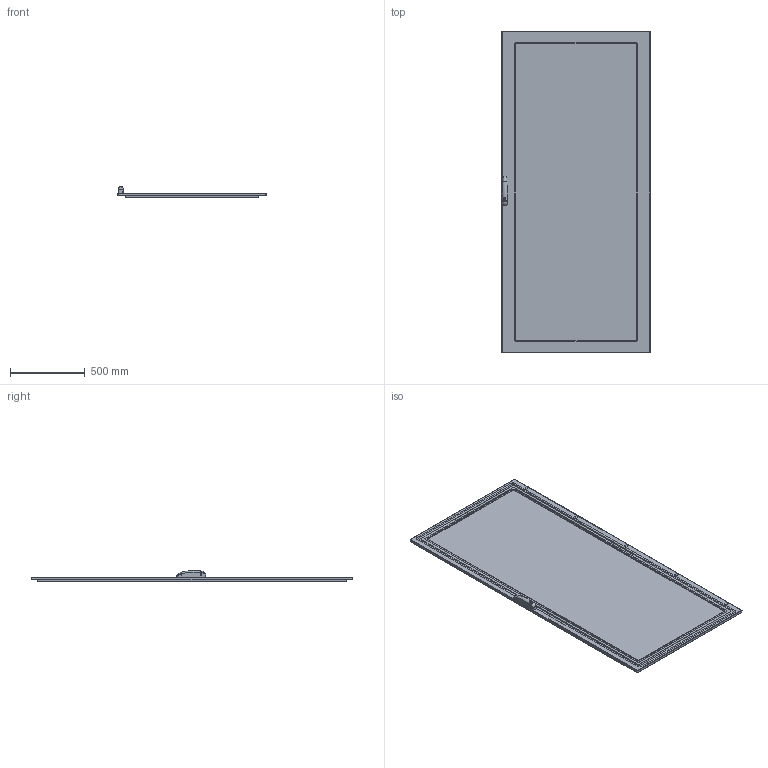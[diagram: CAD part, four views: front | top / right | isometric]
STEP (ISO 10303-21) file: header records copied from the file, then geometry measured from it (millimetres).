
FILE_DESCRIPTION (( 'STEP AP203' ), '1' );
FILE_NAME ('EUPV100220.STEP', '2021-03-15T12:35:50', ( '' ), ( '' ), 'SwSTEP 2.0', 'SolidWorks 2019', '' );
FILE_SCHEMA (( 'CONFIG_CONTROL_DESIGN' ));
Length unit declared in the file: millimetre
Products named in the file (4): AR_ENUX_nuova_maniglia_mesan; AR_ENUX_Plexiglass_porte_1000x2200; EUPV100220; AR_ENUX_Porta_singola_plexi_1000x2200_ANT
Assembly tree (3 placements, depth 2):
  EUPV100220
    AR_ENUX_Porta_singola_plexi_1000x2200_ANT
    AR_ENUX_Plexiglass_porte_1000x2200
    AR_ENUX_nuova_maniglia_mesan
Bounding box: 995 x 2160 x 72 mm (x, y, z)
Volume: 9491875.1 mm3; surface area: 5599981.9 mm2
Topology: 3 solids, 3 shells, 987 faces, 2871 edges, 1892 vertices
Faces by surface type: cylinder 630, plane 310, bspline 25, torus 14, sphere 8
Entity records: 37874 total; most frequent: CARTESIAN_POINT 9436, DIRECTION 6024, ORIENTED_EDGE 5718, EDGE_CURVE 2859, AXIS2_PLACEMENT_3D 2255, VERTEX_POINT 1892, VECTOR 1514, LINE 1514
